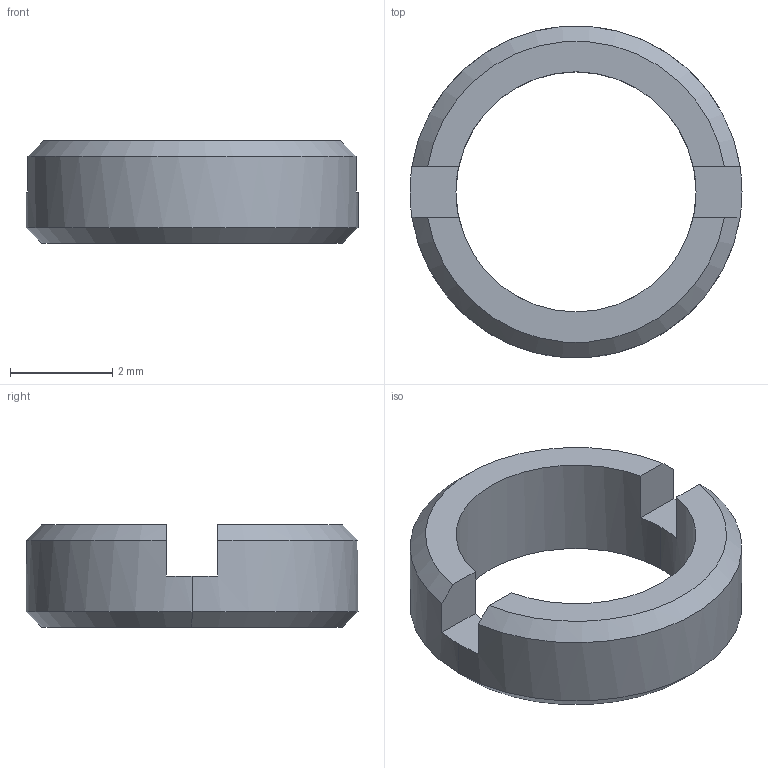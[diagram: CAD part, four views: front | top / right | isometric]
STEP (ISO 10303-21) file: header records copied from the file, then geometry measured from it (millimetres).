
FILE_DESCRIPTION (( 'STEP AP214' ), '1' );
FILE_NAME ('M6.5縐遠.STEP', '2026-07-16T02:12:40', ( '' ), ( '' ), 'SwSTEP 2.0', 'SolidWorks 2024', '' );
FILE_SCHEMA (( 'AUTOMOTIVE_DESIGN' ));
Length unit declared in the file: millimetre
Products named in the file (1): M6.5卡环
Bounding box: 6.5 x 6.5 x 2 mm (x, y, z)
Volume: 28.2 mm3; surface area: 94.4 mm2
Topology: 1 solids, 1 shells, 17 faces, 46 edges, 30 vertices
Faces by surface type: plane 9, cone 4, cylinder 4
Entity records: 575 total; most frequent: CARTESIAN_POINT 106, DIRECTION 98, ORIENTED_EDGE 92, EDGE_CURVE 46, AXIS2_PLACEMENT_3D 38, VERTEX_POINT 30, LINE 22, VECTOR 22
